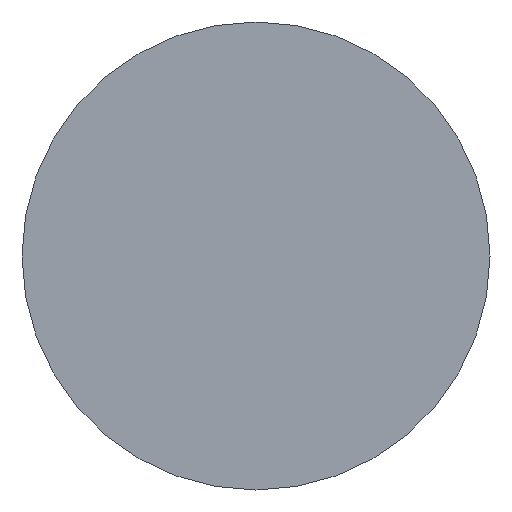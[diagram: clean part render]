
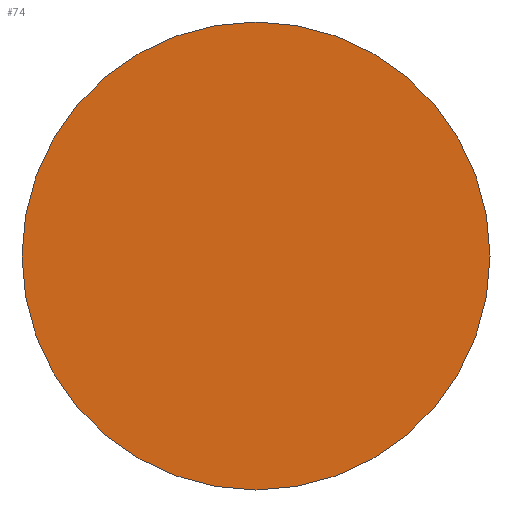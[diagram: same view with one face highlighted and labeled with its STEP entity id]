
A CAD part, left-side view. The second image highlights one B-rep face of the part: STEP entity #74.
In plain terms, the highlighted planar face has unit normal (-1, 0, 0).
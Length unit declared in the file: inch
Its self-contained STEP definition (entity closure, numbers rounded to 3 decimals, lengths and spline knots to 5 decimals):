
#4 = CARTESIAN_POINT ( 'NONE',  ( 0., -3., 0. ) ) ;
#8 = DIRECTION ( 'NONE',  ( -1., 0., 0. ) ) ;
#20 = AXIS2_PLACEMENT_3D ( 'NONE', #42, #69, #104 ) ;
#42 = CARTESIAN_POINT ( 'NONE',  ( 0., 0., 0. ) ) ;
#45 = AXIS2_PLACEMENT_3D ( 'NONE', #83, #8, #76 ) ;
#48 = VERTEX_POINT ( 'NONE', #4 ) ;
#64 = FACE_OUTER_BOUND ( 'NONE', #73, .T. ) ;
#69 = DIRECTION ( 'NONE',  ( 1., 0., 0. ) ) ;
#73 = EDGE_LOOP ( 'NONE', ( #81 ) ) ;
#74 = ADVANCED_FACE ( 'NONE', ( #64 ), #98, .F. ) ;
#76 = DIRECTION ( 'NONE',  ( 0., -1., 0. ) ) ;
#81 = ORIENTED_EDGE ( 'NONE', *, *, #107, .T. ) ;
#83 = CARTESIAN_POINT ( 'NONE',  ( 0., 0., 0. ) ) ;
#98 = PLANE ( 'NONE',  #20 ) ;
#104 = DIRECTION ( 'NONE',  ( 0., 1., 0. ) ) ;
#107 = EDGE_CURVE ( 'NONE', #48, #48, #108, .T. ) ;
#108 = CIRCLE ( 'NONE', #45, 3. ) ;
